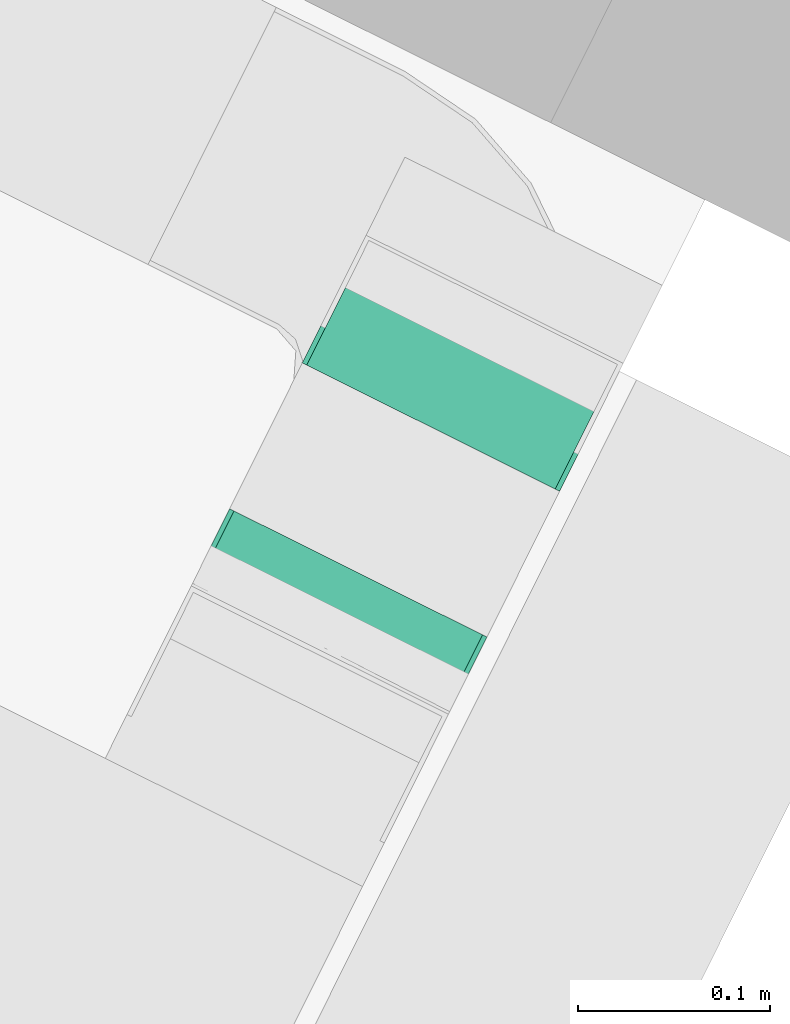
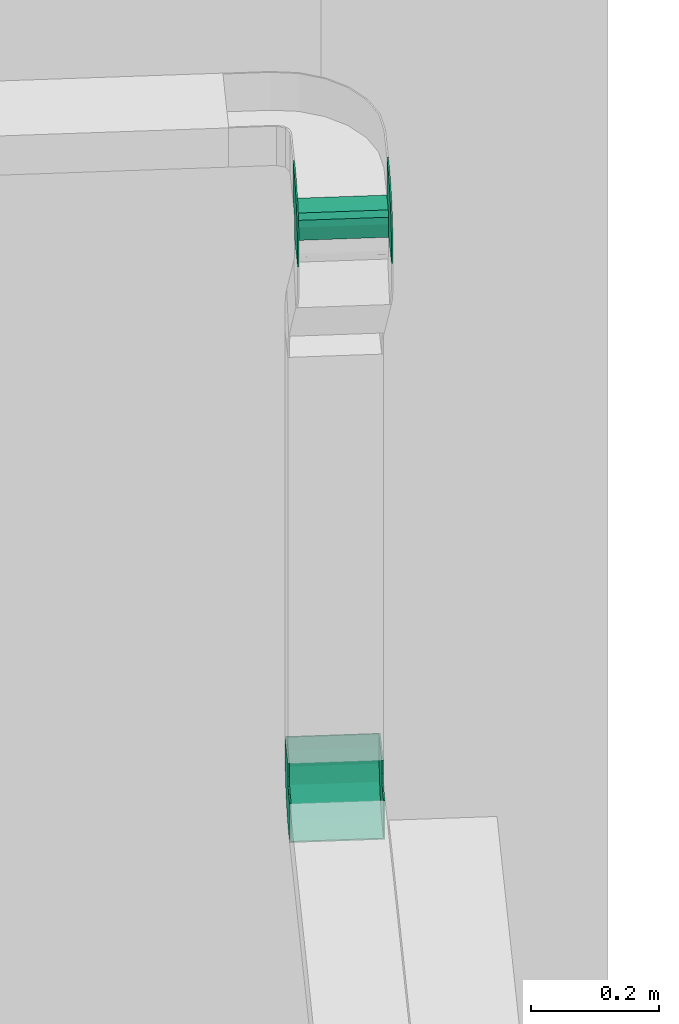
# One storey, part 31 of 34: 2 flow fittings.
"""IFC2X3 building model written with IfcOpenShell, lengths in metres."""

from ifc_helpers import new_model, entity, si_unit, converted_unit, derived_unit, direction, frame, origin, place, context, subcontext, project, spatial, faceted_brep, source, transform, mapped, type_object, type_shapes, element, save


model = new_model("IFC2X3")

# Units and contexts
model_context = context("Model", 3, precision=1e-05, world=origin(), true_north=direction((0.894925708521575, 0.446215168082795)))
context_of_model = context(None, 3, precision=1e-05, world=origin(), true_north=direction((0.894925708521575, 0.446215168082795)))
body_context = subcontext(model_context, "Body", "Model", "MODEL_VIEW")
ifc_project = project(units=[si_unit("LENGTHUNIT", "METRE"), si_unit("AREAUNIT", "SQUARE_METRE"), si_unit("VOLUMEUNIT", "CUBIC_METRE"), converted_unit("PLANEANGLEUNIT", "DEGREE", entity("IfcRatioMeasure", 0.0174532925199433), si_unit("PLANEANGLEUNIT", "RADIAN"), dimensions=[0, 0, 0, 0, 0, 0, 0]), si_unit("MASSUNIT", "GRAM", prefix="KILO"), si_unit("TIMEUNIT", "SECOND"), si_unit("FREQUENCYUNIT", "HERTZ"), si_unit("THERMODYNAMICTEMPERATUREUNIT", "DEGREE_CELSIUS"), derived_unit("THERMALTRANSMITTANCEUNIT", [(si_unit("MASSUNIT", "GRAM", prefix="KILO"), 1), (si_unit("THERMODYNAMICTEMPERATUREUNIT", "KELVIN"), -1), (si_unit("TIMEUNIT", "SECOND"), -3)]), derived_unit("VOLUMETRICFLOWRATEUNIT", [(si_unit("LENGTHUNIT", "METRE"), 3), (si_unit("TIMEUNIT", "SECOND"), -1)]), si_unit("ELECTRICCURRENTUNIT", "AMPERE"), si_unit("ELECTRICVOLTAGEUNIT", "VOLT"), si_unit("POWERUNIT", "WATT"), si_unit("FORCEUNIT", "NEWTON", prefix="KILO"), si_unit("ILLUMINANCEUNIT", "LUX"), si_unit("LUMINOUSFLUXUNIT", "LUMEN"), si_unit("LUMINOUSINTENSITYUNIT", "CANDELA"), si_unit("PRESSUREUNIT", "PASCAL")], contexts=[model_context, context_of_model])

# Site, building, storey
site_placement = place(None, frame((218.228324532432, 584.720189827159, 0.0), z_axis=(0.0, 0.0, 1.0), x_axis=(0.446215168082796, 0.894925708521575, 0.0)))
site = spatial("IfcSite", under=ifc_project, at=site_placement, Name="Default", CompositionType="ELEMENT")
building_placement = place(site_placement, origin())
building = spatial("IfcBuilding", under=site, at=building_placement, CompositionType="ELEMENT")
storey_placement = place(building_placement, frame((0.0, 0.0, 8.61)))
storey = spatial("IfcBuildingStorey", under=building, at=storey_placement, Name="2 - Piano Secondo", CompositionType="ELEMENT", Elevation=8.61)

# Flow fittings
cable_carrier_fitting_type_1 = type_object("IfcCableCarrierFittingType", Name="Standard", PredefinedType="NOTDEFINED")
shared_shape_1 = source(origin(), body_context, "Body", "Brep", [
    faceted_brep([(-0.0824999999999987, -0.0374999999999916, -0.0750000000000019), (-0.0824999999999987, -0.0374999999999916, 0.0749999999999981), (-0.0824999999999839, 0.0375000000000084, 0.0749999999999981), (-0.0824999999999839, 0.0375000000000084, 0.0724600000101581), (-0.0824999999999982, -0.0349600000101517, 0.0724600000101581), (-0.0824999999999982, -0.0349600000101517, -0.0724600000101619), (-0.0824999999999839, 0.0375000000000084, -0.0724600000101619), (-0.0824999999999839, 0.0375000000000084, -0.0750000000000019), (0.0375000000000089, -0.0824999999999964, -0.0750000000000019), (0.0375000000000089, -0.0824999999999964, -0.0724600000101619), (-0.0349600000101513, -0.0824999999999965, -0.0724600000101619), (-0.0349600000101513, -0.0824999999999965, 0.0724600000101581), (0.0375000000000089, -0.0824999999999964, 0.0724600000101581), (0.0375000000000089, -0.0824999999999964, 0.0749999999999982), (-0.0374999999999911, -0.0824999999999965, 0.0749999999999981), (-0.0374999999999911, -0.0824999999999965, -0.0750000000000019), (-0.05749999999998, 0.0375000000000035, 0.0749999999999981), (-0.0574999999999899, -0.0374999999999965, 0.0749999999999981), (-0.0542283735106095, -0.0388551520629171, 0.0749999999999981), (-0.0509567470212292, -0.0402103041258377, 0.0749999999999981), (-0.0471573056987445, -0.0417840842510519, 0.0749999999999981), (-0.0433578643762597, -0.043357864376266, 0.0749999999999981), (-0.0418933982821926, -0.0468933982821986, 0.0749999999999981), (-0.0404289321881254, -0.0504289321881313, 0.0749999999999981), (-0.0388551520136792, -0.0542283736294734, 0.0749999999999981), (-0.0374999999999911, -0.0574999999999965, 0.0749999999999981), (0.0375000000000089, -0.0574999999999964, 0.0749999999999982), (0.0358431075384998, -0.0470387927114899, 0.0749999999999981), (0.0343467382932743, -0.0375910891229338, 0.0749999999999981), (0.0328503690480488, -0.0281433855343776, 0.0749999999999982), (0.0261034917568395, -0.0149018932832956, 0.0749999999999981), (0.0193566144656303, -0.00166040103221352, 0.0749999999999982), (0.0088481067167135, 0.00884810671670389, 0.0749999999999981), (-0.00166040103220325, 0.0193566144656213, 0.0749999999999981), (-0.0149018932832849, 0.0261034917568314, 0.0749999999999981), (-0.0281433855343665, 0.0328503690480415, 0.0749999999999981), (-0.0375910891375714, 0.0343467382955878, 0.0749999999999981), (-0.0470387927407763, 0.0358431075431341, 0.0749999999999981), (-0.0574999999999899, -0.0374999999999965, -0.0750000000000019), (-0.057499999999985, 0.0375000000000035, -0.0750000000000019), (-0.0428216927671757, 0.0351751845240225, -0.0750000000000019), (-0.0281433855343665, 0.0328503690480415, -0.0750000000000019), (-0.0149018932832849, 0.0261034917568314, -0.0750000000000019), (-0.00166040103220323, 0.0193566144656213, -0.0750000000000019), (0.0088481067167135, 0.00884810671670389, -0.0750000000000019), (0.0193566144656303, -0.00166040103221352, -0.0750000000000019), (0.0261034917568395, -0.0149018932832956, -0.0750000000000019), (0.0328503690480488, -0.0281433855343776, -0.0750000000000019), (0.0343467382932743, -0.0375910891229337, -0.0750000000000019), (0.0358431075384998, -0.0470387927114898, -0.0750000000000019), (0.0375000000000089, -0.0574999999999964, -0.0750000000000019), (-0.0374999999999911, -0.0574999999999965, -0.0750000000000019), (-0.0389644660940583, -0.0539644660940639, -0.0750000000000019), (-0.0404289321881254, -0.0504289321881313, -0.0750000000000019), (-0.0418933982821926, -0.0468933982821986, -0.0750000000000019), (-0.0433578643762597, -0.043357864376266, -0.0750000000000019), (-0.0468933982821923, -0.0418933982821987, -0.0750000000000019), (-0.0504289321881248, -0.0404289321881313, -0.0750000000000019), (-0.0539644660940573, -0.0389644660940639, -0.0750000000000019), (-0.057499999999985, 0.0375000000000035, -0.0724600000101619), (-0.057499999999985, 0.0375000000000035, 0.0724600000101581), (-0.0574999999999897, -0.0349600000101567, -0.0724600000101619), (-0.05186500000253, -0.0364698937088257, -0.0724600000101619), (-0.0462300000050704, -0.0379797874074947, -0.0724600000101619), (-0.0421048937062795, -0.0421048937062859, -0.0724600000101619), (-0.0379797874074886, -0.046230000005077, -0.0724600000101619), (-0.03646989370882, -0.0518650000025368, -0.0724600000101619), (-0.0349600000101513, -0.0574999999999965, -0.0724600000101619), (0.0375000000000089, -0.0574999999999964, -0.0724600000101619), (0.0351751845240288, -0.042821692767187, -0.0724600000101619), (0.0328503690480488, -0.0281433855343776, -0.0724600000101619), (0.0261034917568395, -0.0149018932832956, -0.0724600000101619), (0.0193566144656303, -0.00166040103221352, -0.0724600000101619), (0.0088481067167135, 0.00884810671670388, -0.0724600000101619), (-0.00166040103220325, 0.0193566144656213, -0.0724600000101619), (-0.0149018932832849, 0.0261034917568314, -0.0724600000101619), (-0.0281433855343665, 0.0328503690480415, -0.0724600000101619), (-0.0428216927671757, 0.0351751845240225, -0.0724600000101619), (-0.0574999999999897, -0.0349600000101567, 0.0724600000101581), (-0.0281433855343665, 0.0328503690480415, 0.0724600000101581), (-0.0149018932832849, 0.0261034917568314, 0.0724600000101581), (-0.00166040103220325, 0.0193566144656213, 0.0724600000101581), (0.0088481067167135, 0.00884810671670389, 0.0724600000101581), (0.0193566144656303, -0.00166040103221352, 0.0724600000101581), (0.0261034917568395, -0.0149018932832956, 0.0724600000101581), (0.0328503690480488, -0.0281433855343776, 0.0724600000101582), (0.0351751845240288, -0.042821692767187, 0.0724600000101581), (0.0375000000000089, -0.0574999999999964, 0.0724600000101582), (-0.0349600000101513, -0.0574999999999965, 0.0724600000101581), (-0.0361114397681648, -0.0532027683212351, 0.0724600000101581), (-0.0379797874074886, -0.046230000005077, 0.0724600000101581), (-0.0421048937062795, -0.0421048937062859, 0.0724600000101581), (-0.0462300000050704, -0.0379797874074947, 0.0724600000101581), (-0.0532027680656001, -0.0361114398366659, 0.0724600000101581), (-0.0428216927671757, 0.0351751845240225, 0.0724600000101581)], [[[0, 1, 2, 3, 4, 5, 6, 7]], [[8, 9, 10, 11, 12, 13, 14, 15]], [[16, 2, 1, 17, 18, 19, 20, 21, 22, 23, 24, 25, 14, 13, 26, 27, 28, 29, 30, 31, 32, 33, 34, 35, 36, 37]], [[17, 1, 0, 38]], [[7, 39, 40, 41, 42, 43, 44, 45, 46, 47, 48, 49, 50, 8, 15, 51, 52, 53, 54, 55, 56, 57, 58, 38, 0]], [[59, 39, 7, 6]], [[16, 60, 3, 2]], [[59, 6, 5, 61, 62, 63, 64, 65, 66, 67, 10, 9, 68, 69, 70, 71, 72, 73, 74, 75, 76, 77]], [[61, 5, 4, 78]], [[79, 80, 81, 82, 83, 84, 85, 86, 87, 12, 11, 88, 89, 90, 91, 92, 93, 78, 4, 3, 60, 94]], [[19, 18, 17, 38, 58, 57, 56, 55, 21, 20]], [[21, 55, 54, 53, 52, 51, 25, 24, 23, 22]], [[77, 76, 41, 40, 39, 59]], [[35, 79, 94, 60, 16, 37, 36]], [[74, 43, 42, 41, 76, 75]], [[35, 34, 33, 81, 80, 79]], [[69, 68, 50, 49, 48, 47, 70]], [[28, 27, 26, 87, 86, 85, 29]], [[73, 72, 45, 44, 43, 74]], [[83, 82, 81, 33, 32, 31]], [[47, 46, 45, 72, 71, 70]], [[31, 30, 29, 85, 84, 83]], [[63, 62, 61, 78, 93, 92]], [[91, 90, 65, 64, 63, 92]], [[89, 88, 67, 66, 65, 90]], [[14, 25, 51, 15]], [[8, 50, 68, 9]], [[12, 87, 26, 13]], [[10, 67, 88, 11]]]),
])
type_shapes(cable_carrier_fitting_type_1, [shared_shape_1])
flow_fitting_1_placement = place(storey_placement, frame((-13.1218716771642, -13.1260789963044, 2.34999999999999), z_axis=(0.0, 1.0, 0.0), x_axis=(-1.0, 0.0, 0.0)))
element("IfcFlowFitting", 1, at=flow_fitting_1_placement, inside=storey, type_object=cable_carrier_fitting_type_1, Name="M_Curvatura esterna verticale canale:Standard", ObjectType="Standard", context=body_context, shape_type="MappedRepresentation", body=[
    mapped(shared_shape_1, transform((0.0, 0.0, 0.0), scale=1.0)),
])
cable_carrier_fitting_type_2 = type_object("IfcCableCarrierFittingType", Name="Standard", PredefinedType="NOTDEFINED")
shared_shape_2 = source(origin(), body_context, "Body", "Brep", [
    faceted_brep([(-0.0824999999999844, -0.0349600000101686, -0.0724600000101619), (-0.0824999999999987, 0.0374999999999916, -0.0724600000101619), (-0.0824999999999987, 0.0374999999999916, -0.0750000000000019), (-0.0824999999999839, -0.0375000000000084, -0.0750000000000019), (-0.0824999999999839, -0.0375000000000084, 0.0749999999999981), (-0.0824999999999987, 0.0374999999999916, 0.0749999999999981), (-0.0824999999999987, 0.0374999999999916, 0.0724600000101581), (-0.0824999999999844, -0.0349600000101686, 0.0724600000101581), (-0.0374999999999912, 0.0824999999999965, -0.0750000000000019), (-0.0374999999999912, 0.0824999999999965, -0.0724600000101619), (0.034960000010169, 0.0824999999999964, -0.0724600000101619), (0.034960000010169, 0.0824999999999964, 0.0724600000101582), (-0.0374999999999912, 0.0824999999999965, 0.0724600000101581), (-0.0374999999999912, 0.0824999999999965, 0.0749999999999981), (0.0375000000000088, 0.0824999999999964, 0.0749999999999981), (0.0375000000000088, 0.0824999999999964, -0.0750000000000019), (-0.057499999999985, -0.0375000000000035, 0.0749999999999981), (-0.0281433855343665, -0.0328503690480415, 0.0749999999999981), (-0.0016604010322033, -0.0193566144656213, 0.0749999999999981), (0.0193566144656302, 0.00166040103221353, 0.0749999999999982), (0.0328503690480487, 0.0281433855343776, 0.0749999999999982), (0.0375000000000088, 0.0574999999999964, 0.0749999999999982), (-0.0374999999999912, 0.0574999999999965, 0.0749999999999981), (-0.0389644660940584, 0.0539644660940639, 0.0749999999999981), (-0.0404289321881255, 0.0504289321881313, 0.0749999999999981), (-0.0418933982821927, 0.0468933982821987, 0.0749999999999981), (-0.0433578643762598, 0.043357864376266, 0.0749999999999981), (-0.0468933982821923, 0.0418933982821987, 0.0749999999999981), (-0.0504289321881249, 0.0404289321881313, 0.0749999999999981), (-0.0531066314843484, 0.0393197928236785, 0.0749999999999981), (-0.0574999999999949, 0.0374999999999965, 0.0749999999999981), (-0.057499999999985, -0.0375000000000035, -0.0750000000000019), (-0.0574999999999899, 0.0374999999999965, -0.0750000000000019), (-0.0531066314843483, 0.0393197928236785, -0.0750000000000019), (-0.0487132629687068, 0.0411395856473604, -0.0750000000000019), (-0.0433578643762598, 0.043357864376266, -0.0750000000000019), (-0.0418933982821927, 0.0468933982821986, -0.0750000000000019), (-0.0404289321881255, 0.0504289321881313, -0.0750000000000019), (-0.0389644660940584, 0.0539644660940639, -0.0750000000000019), (-0.0374999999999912, 0.0574999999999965, -0.0750000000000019), (0.0375000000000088, 0.0574999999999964, -0.0750000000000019), (0.0328503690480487, 0.0281433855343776, -0.0750000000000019), (0.0193566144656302, 0.00166040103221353, -0.0750000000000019), (-0.0016604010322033, -0.0193566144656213, -0.0750000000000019), (-0.0281433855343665, -0.0328503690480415, -0.0750000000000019), (-0.0574999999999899, 0.0374999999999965, -0.0724600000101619), (-0.0574999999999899, 0.0374999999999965, 0.0724600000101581), (-0.0574999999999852, -0.0349600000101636, -0.0724600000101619), (-0.0289282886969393, -0.0304346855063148, -0.0724600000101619), (-0.00315337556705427, -0.0173017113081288, -0.0724600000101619), (0.0173017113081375, 0.00315337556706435, -0.0724600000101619), (0.0304346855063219, 0.0289282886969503, -0.0724600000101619), (0.034960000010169, 0.0574999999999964, -0.0724600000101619), (-0.0374999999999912, 0.0574999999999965, -0.0724600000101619), (-0.0389644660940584, 0.0539644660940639, -0.0724600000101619), (-0.0404289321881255, 0.0504289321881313, -0.0724600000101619), (-0.0418933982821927, 0.0468933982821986, -0.0724600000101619), (-0.0433578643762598, 0.043357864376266, -0.0724600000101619), (-0.0468933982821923, 0.0418933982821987, -0.0724600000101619), (-0.0504289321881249, 0.0404289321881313, -0.0724600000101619), (-0.0531066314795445, 0.0393197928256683, -0.0724600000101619), (-0.0574999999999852, -0.0349600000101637, 0.0724600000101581), (-0.0539644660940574, 0.0389644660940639, 0.0724600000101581), (-0.0504289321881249, 0.0404289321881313, 0.0724600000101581), (-0.0468933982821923, 0.0418933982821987, 0.0724600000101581), (-0.0433578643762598, 0.043357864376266, 0.0724600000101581), (-0.041139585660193, 0.0487132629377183, 0.0724600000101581), (-0.0393197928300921, 0.0531066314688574, 0.0724600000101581), (-0.0374999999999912, 0.0574999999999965, 0.0724600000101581), (0.034960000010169, 0.0574999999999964, 0.0724600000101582), (0.0304346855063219, 0.0289282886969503, 0.0724600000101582), (0.0173017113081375, 0.00315337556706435, 0.0724600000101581), (-0.00315337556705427, -0.0173017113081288, 0.0724600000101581), (-0.0289282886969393, -0.0304346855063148, 0.0724600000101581)], [[[0, 1, 2, 3, 4, 5, 6, 7]], [[8, 9, 10, 11, 12, 13, 14, 15]], [[5, 4, 16, 17, 18, 19, 20, 21, 14, 13, 22, 23, 24, 25, 26, 27, 28, 29, 30]], [[4, 3, 31, 16]], [[2, 32, 33, 34, 35, 36, 37, 38, 39, 8, 15, 40, 41, 42, 43, 44, 31, 3]], [[2, 1, 45, 32]], [[6, 5, 30, 46]], [[1, 0, 47, 48, 49, 50, 51, 52, 10, 9, 53, 54, 55, 56, 57, 58, 59, 60, 45]], [[0, 7, 61, 47]], [[6, 46, 62, 63, 64, 65, 66, 67, 68, 12, 11, 69, 70, 71, 72, 73, 61, 7]], [[44, 43, 18, 17]], [[31, 44, 17, 16]], [[43, 42, 19, 18]], [[19, 42, 41, 20]], [[20, 41, 40, 21]], [[32, 45, 60, 59, 58, 57, 35, 34, 33]], [[64, 63, 62, 46, 30, 29, 28, 27, 26, 65]], [[38, 37, 36, 35, 57, 56, 55, 54, 53, 39]], [[67, 66, 65, 26, 25, 24, 23, 22, 68]], [[72, 49, 48, 73]], [[61, 73, 48, 47]], [[72, 71, 50, 49]], [[51, 50, 71, 70]], [[52, 51, 70, 69]], [[21, 40, 15, 14]], [[39, 53, 9, 8]], [[68, 22, 13, 12]], [[52, 69, 11, 10]]]),
])
type_shapes(cable_carrier_fitting_type_2, [shared_shape_2])
flow_fitting_2_placement = place(storey_placement, frame((-12.8718716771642, -13.1260789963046, 1.06000000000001), z_axis=(0.0, -1.0, 0.0), x_axis=(1.0, 0.0, 0.0)))
element("IfcFlowFitting", 2, at=flow_fitting_2_placement, inside=storey, type_object=cable_carrier_fitting_type_2, Name="M_Curvatura interna verticale canale:Standard", ObjectType="Standard", context=body_context, shape_type="MappedRepresentation", body=[
    mapped(shared_shape_2, transform((0.0, 0.0, 0.0), scale=1.0)),
])

save(model, "model.ifc")
